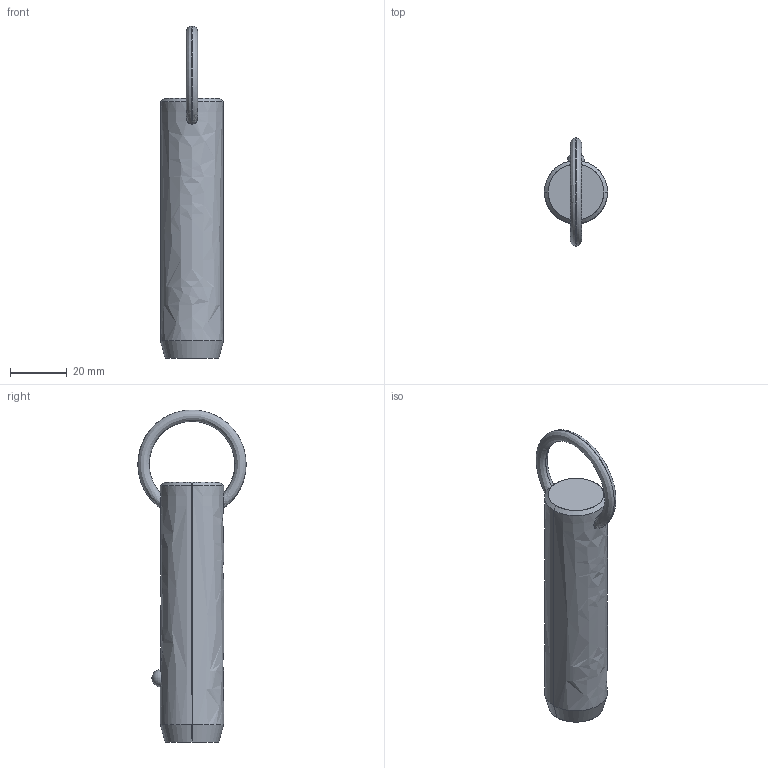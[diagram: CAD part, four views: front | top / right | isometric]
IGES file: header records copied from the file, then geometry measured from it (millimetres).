
Start section: SolidWorks IGES file using analytic representation for surfaces
Global section: file name: C:\Users\liam_\OneDrive\Documents\WORK\Work for WixRoyd\Job Files\J-00019 - Matt Davis CAD Checking\04. CAD Drawings\automotion20190605\P1250.2_v2\P1250.2_v2_20190729_IGES\P1250.087-210.igs; native system: SolidWorks 2017; preprocessor: SolidWorks 2017; author: liam_; date: 190730.000637; units: millimetre
Bounding box: 22.2 x 38.09 x 116.8 mm (x, y, z)
Surface area: 8018.3 mm2 (no closed solid volume)
Topology: 0 solids, 0 shells, 12 faces, 302 edges, 300 vertices
Faces by surface type: revolution 8, bspline 4
